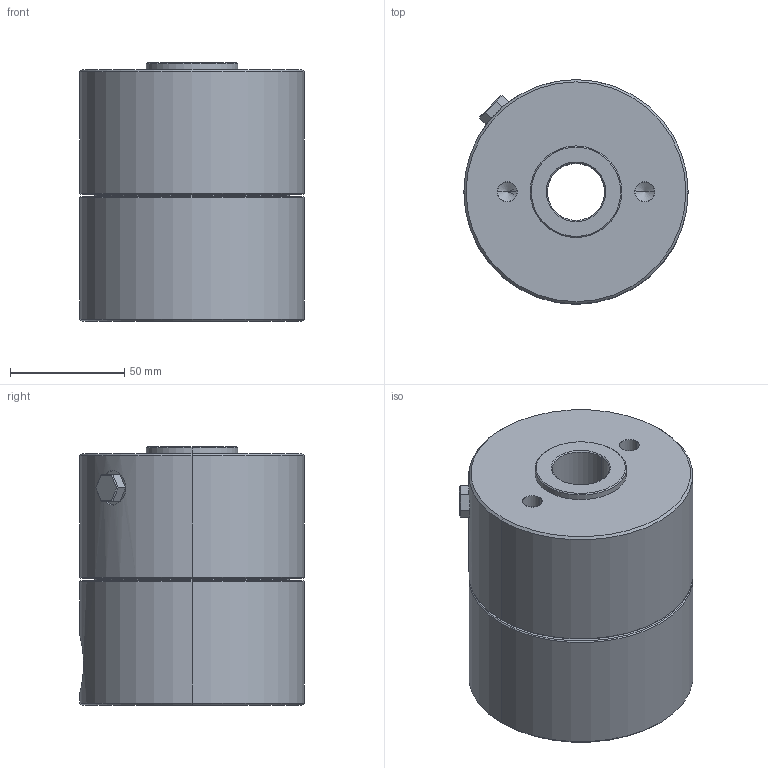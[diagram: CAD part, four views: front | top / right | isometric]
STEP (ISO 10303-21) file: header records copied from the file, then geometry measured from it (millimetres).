
FILE_DESCRIPTION (( 'STEP AP203' ), '1' );
FILE_NAME ('4610-512.STEP', '2016-01-29T10:16:17', ( '' ), ( '' ), 'SwSTEP 2.0', 'SolidWorks 2015', '' );
FILE_SCHEMA (( 'CONFIG_CONTROL_DESIGN' ));
Length unit declared in the file: millimetre
Products named in the file (1): 4610-512
Bounding box: 98 x 98 x 113 mm (x, y, z)
Volume: 769363.1 mm3; surface area: 62640.9 mm2
Topology: 1 solids, 2 shells, 71 faces, 152 edges, 86 vertices
Faces by surface type: cone 26, plane 21, cylinder 20, torus 4
Entity records: 2097 total; most frequent: CARTESIAN_POINT 486, DIRECTION 348, ORIENTED_EDGE 288, EDGE_CURVE 144, AXIS2_PLACEMENT_3D 136, VERTEX_POINT 86, EDGE_LOOP 82, LINE 76
